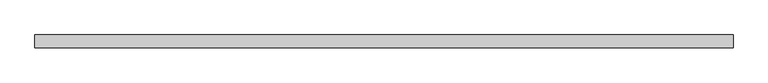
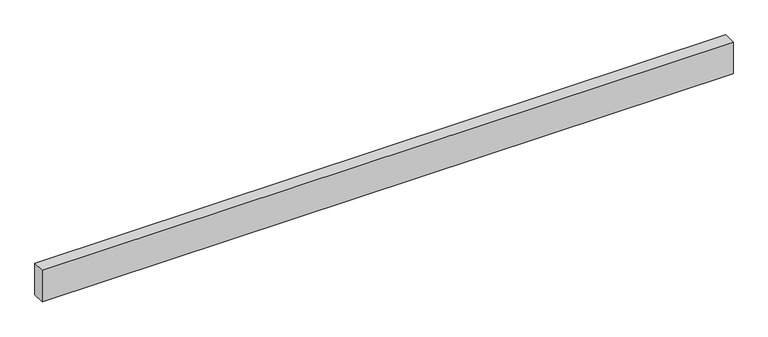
"""IFC4 building model written with IfcOpenShell, lengths in millimetres: beam geometry, Trus Joist - TimberStrand LSL - Beam Header : TimberStrand® 1.3E – 9 1/4 x 3 1/2”."""

from ifc_helpers import new_model, si_unit, frame, origin, place, context, project, spatial, polyline, outline, extrude, source, transform, mapped, element, save


def beam_678facec(model_context):
    return source(origin(), model_context, "Body", "SweptSolid", [
        extrude(outline(polyline([(2438.4, 44.45), (2438.4, -44.45), (-2438.4, -44.45), (-2438.4, 44.45), (2438.4, 44.45)])), frame((0.0, 0.0, -117.475), z_axis=(0.0, 0.0, 1.0), x_axis=(1.0, 0.0, 0.0)), (0.0, 0.0, 1.0), 234.95),
    ])


if __name__ == "__main__":
    model = new_model("IFC4")
    model_context = context("Model", 3, world=origin())
    ifc_project = project(units=[si_unit("LENGTHUNIT", "METRE", prefix="MILLI")], contexts=[model_context])
    site = spatial("IfcSite", under=ifc_project)
    building = spatial("IfcBuilding", under=site)
    placement = place(None, origin())
    beam_shape = beam_678facec(model_context)
    element("IfcBeam", 1, ObjectType="Trus Joist - TimberStrand LSL - Beam Header : TimberStrand® 1.3E – 9 1/4 x 3 1/2”", at=placement, inside=building, context=model_context, shape_type="MappedRepresentation", body=[
        mapped(beam_shape, transform((0.0, 0.0, 0.0), x_axis=(1.0, 0.0, 0.0), y_axis=(0.0, 1.0, 0.0), z_axis=(0.0, 0.0, 1.0))),
    ])
    save(model, "model.ifc")
